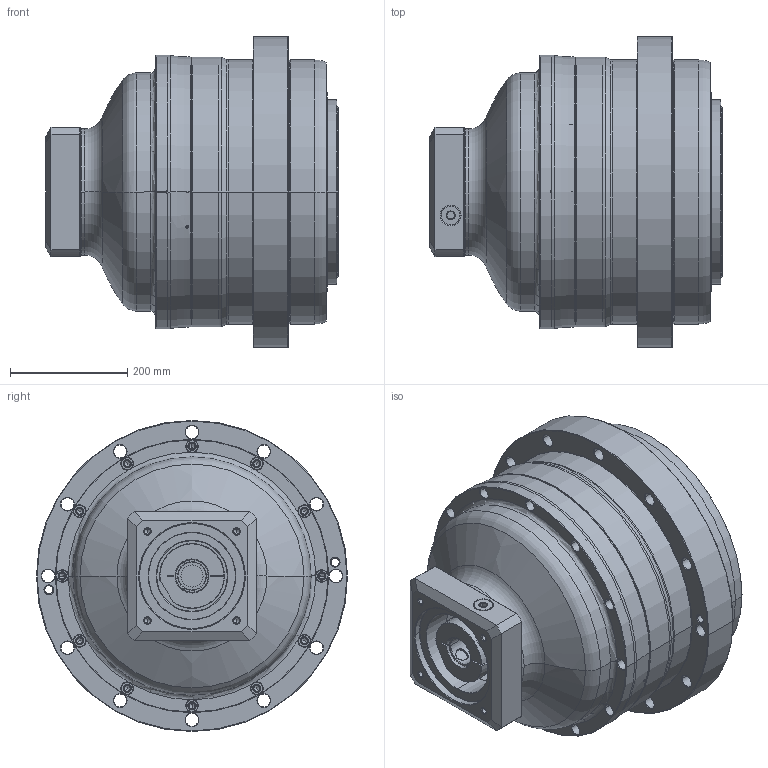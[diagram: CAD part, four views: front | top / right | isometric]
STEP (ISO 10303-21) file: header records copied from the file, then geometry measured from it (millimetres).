
FILE_DESCRIPTION((''),'2;1');
FILE_NAME('AH450_2ST_48-P0409B50101_ASM','2016-08-03T',('d01943'),(''),'PRO/ENGINEER BY PARAMETRIC TECHNOLOGY CORPORATION, 2008410','PRO/ENGINEER BY PARAMETRIC TECHNOLOGY CORPORATION, 2008410','');
FILE_SCHEMA(('CONFIG_CONTROL_DESIGN'));
Length unit declared in the file: millimetre
Products named in the file (8): P0276200003; P0357200003; P1339200301; P0409B50101; P0503B00016; P0962203001; 21711426021; AH450_2ST_48-P0409B50101_ASM
Assembly tree (7 placements, depth 2):
  AH450_2ST_48-P0409B50101_ASM
    P0276200003
    P0357200003
    P1339200301
    P0409B50101
    P0503B00016
    P0962203001
    21711426021
Bounding box: 498 x 530 x 530 mm (x, y, z)
Volume: 53751809.6 mm3; surface area: 2047683.1 mm2
Topology: 8 solids, 8 shells, 822 faces, 1867 edges, 1078 vertices
Faces by surface type: cylinder 296, cone 282, torus 112, plane 104, bspline 28
Entity records: 27944 total; most frequent: CARTESIAN_POINT 9006, DIRECTION 4333, ORIENTED_EDGE 3630, AXIS2_PLACEMENT_3D 1838, EDGE_CURVE 1815, VERTEX_POINT 1078, CIRCLE 1029, EDGE_LOOP 983
